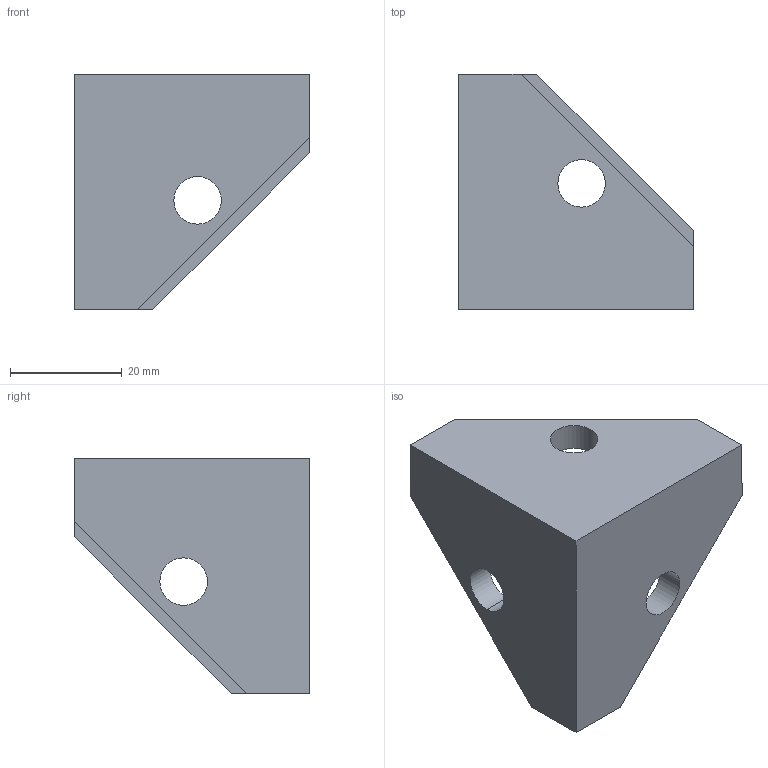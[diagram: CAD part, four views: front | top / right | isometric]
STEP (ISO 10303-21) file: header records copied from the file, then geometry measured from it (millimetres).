
FILE_DESCRIPTION (( 'STEP AP214' ), '1' );
FILE_NAME ('SL03006.step', '2024-12-03T16:31:08', ( '' ), ( '' ), 'SwSTEP 2.0', 'SolidWorks 2023', '' );
FILE_SCHEMA (( 'AUTOMOTIVE_DESIGN' ));
Length unit declared in the file: millimetre
Products named in the file (1): SL03006
Bounding box: 42 x 42 x 42 mm (x, y, z)
Volume: 16173.8 mm3; surface area: 7940.4 mm2
Topology: 1 solids, 1 shells, 28 faces, 76 edges, 49 vertices
Faces by surface type: plane 18, cylinder 9, sphere 1
Entity records: 908 total; most frequent: CARTESIAN_POINT 153, DIRECTION 151, ORIENTED_EDGE 150, EDGE_CURVE 75, VECTOR 57, LINE 57, VERTEX_POINT 49, AXIS2_PLACEMENT_3D 47
